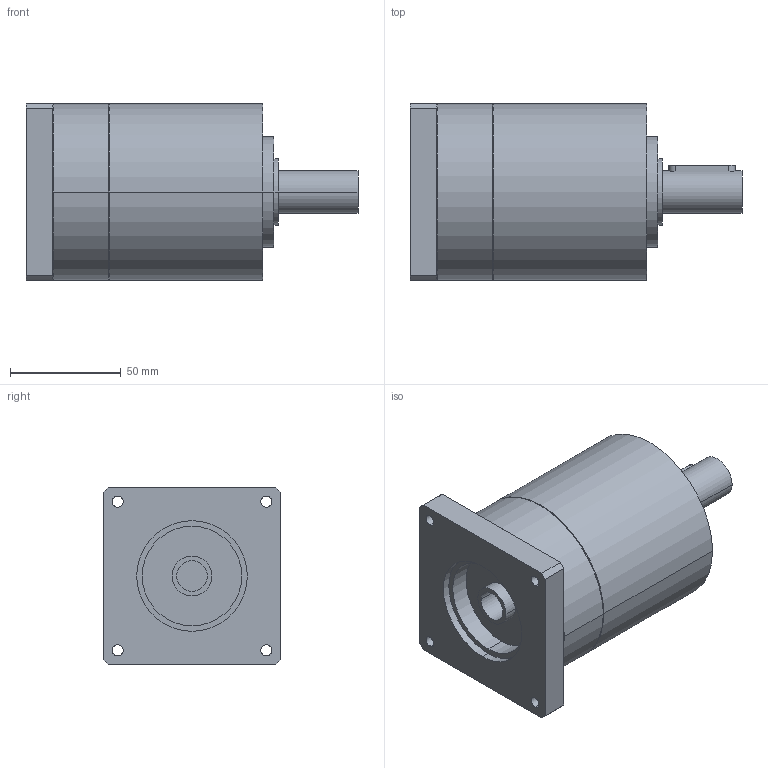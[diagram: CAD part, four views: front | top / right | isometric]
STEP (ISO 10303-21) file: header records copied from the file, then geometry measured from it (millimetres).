
FILE_DESCRIPTION(('CoCreate Modeling STEP Export'),'2;1');
FILE_NAME('GPR100_ig-3-4-5-6_19_B14_14_P21.stp','2014-08-26T10:07:19',(''),(''),'CoCreate Modeling STEP processor for AP214 (Solid Model)','CoCreate Modeling 16.00C 25-Feb-2009 (C) Parametric Technology GmbH','');
FILE_SCHEMA(('AUTOMOTIVE_DESIGN { 1 0 10303 214 1 1 1 1 }'));
Length unit declared in the file: millimetre
Products named in the file (2): GPR100_ig-3-4-5-6_19_B14_14_P21
Assembly tree (1 placements, depth 2):
  GPR100_ig-3-4-5-6_19_B14_14_P21
    GPR100_ig-3-4-5-6_19_B14_14_P21
Bounding box: 150 x 80 x 80 mm (x, y, z)
Volume: 549753 mm3; surface area: 49446.7 mm2
Topology: 1 solids, 1 shells, 70 faces, 186 edges, 130 vertices
Faces by surface type: cylinder 42, plane 22, cone 6
Entity records: 1929 total; most frequent: ORIENTED_EDGE 368, CARTESIAN_POINT 358, DIRECTION 262, EDGE_CURVE 184, VERTEX_POINT 130, AXIS2_PLACEMENT_3D 98, EDGE_LOOP 92, FACE_OUTER_BOUND 70
